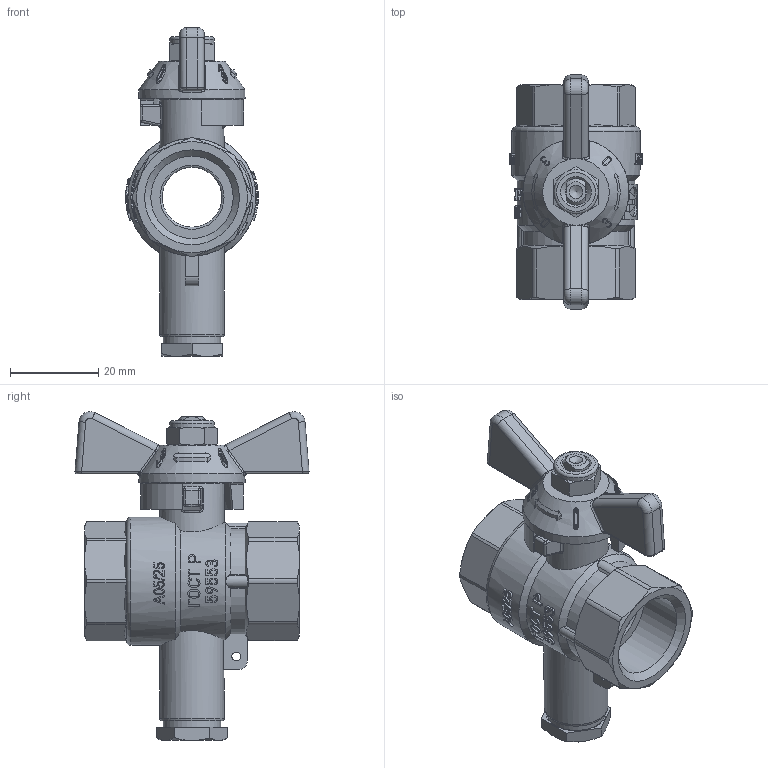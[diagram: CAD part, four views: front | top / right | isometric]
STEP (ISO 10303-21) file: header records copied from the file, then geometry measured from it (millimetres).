
FILE_DESCRIPTION(('STEP AP203'), '1');
FILE_NAME('VT.247S.N.04', '', ('UNSPECIFIED'), ('UNSPECIFIED'), 'C3D Converter', 'C3D Toolkit', '');
FILE_SCHEMA(('CONFIG_CONTROL_DESIGN'));
Length unit declared in the file: millimetre
Products named in the file (1): ВР.491812.017.000 СБ
Bounding box: 30 x 52.91 x 74.38 mm (x, y, z)
Volume: 27910.6 mm3; surface area: 12494.2 mm2
Topology: 1 solids, 3 shells, 1710 faces, 4825 edges, 3165 vertices
Faces by surface type: plane 1343, cylinder 130, extrusion 108, cone 59, bspline 46, torus 20, sphere 4
Full cylindrical faces by diameter (mm): 2 x1, 10 x1, 13 x1, 13.5 x1, 14 x1, 14.5 x2, 18.632 x2, 24 x1, 29 x1
Entity records: 63979 total; most frequent: CARTESIAN_POINT 26847, ORIENTED_EDGE 9570, DIRECTION 5834, EDGE_CURVE 4785, VERTEX_POINT 3164, AXIS2_PLACEMENT_3D 1980, VECTOR 1874, EDGE_LOOP 1801
